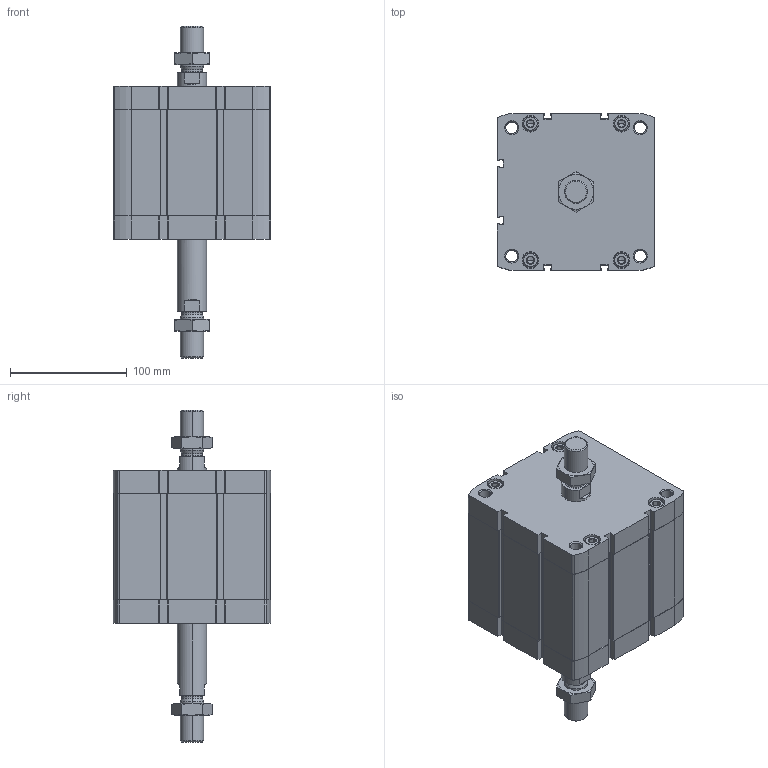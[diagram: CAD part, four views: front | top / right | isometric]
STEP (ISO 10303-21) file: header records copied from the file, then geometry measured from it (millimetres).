
FILE_DESCRIPTION (( 'STEP AP203' ), '1' );
FILE_NAME ('CCN125-50-P.STEP', '2020-06-22T19:14:43', ( '' ), ( '' ), 'SwSTEP 2.0', 'SolidWorks 2019', '' );
FILE_SCHEMA (( 'CONFIG_CONTROL_DESIGN' ));
Length unit declared in the file: millimetre
Products named in the file (1): CCN125-50-P
Bounding box: 134.6 x 134.6 x 284.4 mm (x, y, z)
Volume: 1748485 mm3; surface area: 256787.8 mm2
Topology: 4 solids, 4 shells, 592 faces, 1496 edges, 936 vertices
Faces by surface type: plane 288, cylinder 204, cone 92, torus 8
Entity records: 19603 total; most frequent: CARTESIAN_POINT 5061, DIRECTION 3146, ORIENTED_EDGE 2960, EDGE_CURVE 1480, AXIS2_PLACEMENT_3D 1165, VERTEX_POINT 936, LINE 816, VECTOR 816
